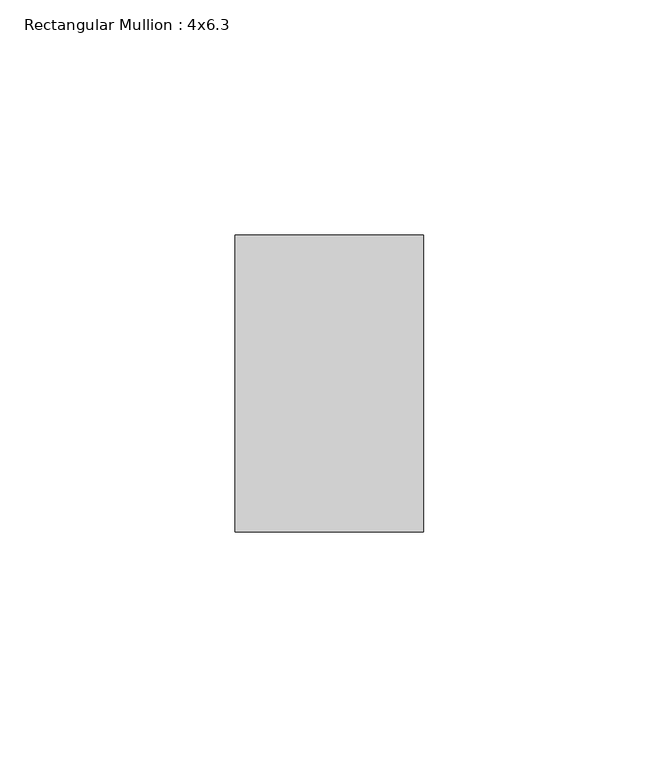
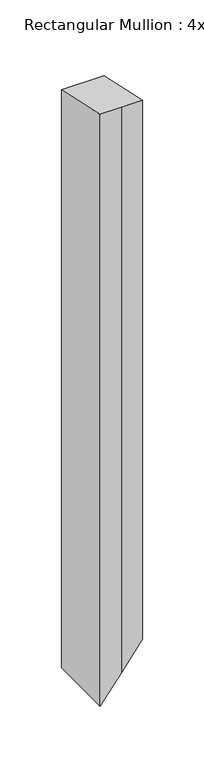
"""IFC4 building model written with IfcOpenShell, lengths in millimetres: member geometry, Rectangular Mullion : 4x6.3."""

from ifc_helpers import new_model, si_unit, origin, place, context, project, spatial, faceted_brep, source, transform, mapped, element, save


def rectangular_mullion_4x6_3_fac21d2d(model_context):
    return source(origin(), model_context, "Body", "Brep", [
        faceted_brep([(0.0, 20.0, -4.3995804), (-20.0, 20.0, -4.3995804), (-20.0, 20.0, -591.8726574), (0.0, 20.0, -565.4519004), (20.0, 20.0, -4.3995804), (20.0, 20.0, -539.0311435), (20.0, 83.0, -18.2582585), (20.0, 83.0, -539.0311435), (-20.0, 83.0, -18.2582585), (-20.0, 83.0, -591.8726574)], [[[0, 1, 2, 3]], [[4, 0, 3, 5]], [[6, 4, 5, 7]], [[8, 6, 7, 9]], [[1, 8, 9, 2]], [[1, 0, 4, 6, 8]], [[2, 9, 7, 5, 3]]]),
    ])


if __name__ == "__main__":
    model = new_model("IFC4")
    model_context = context("Model", 3, world=origin())
    ifc_project = project(units=[si_unit("LENGTHUNIT", "METRE", prefix="MILLI")], contexts=[model_context])
    site = spatial("IfcSite", under=ifc_project)
    building = spatial("IfcBuilding", under=site)
    placement = place(None, origin())
    rectangular_mullion_4x6_3_shape = rectangular_mullion_4x6_3_fac21d2d(model_context)
    element("IfcMember", 1, ObjectType="Rectangular Mullion : 4x6.3", at=placement, inside=building, context=model_context, shape_type="MappedRepresentation", body=[
        mapped(rectangular_mullion_4x6_3_shape, transform((0.0, 0.0, 0.0), x_axis=(1.0, 0.0, 0.0), y_axis=(0.0, 1.0, 0.0), z_axis=(0.0, 0.0, 1.0))),
    ])
    save(model, "model.ifc")
